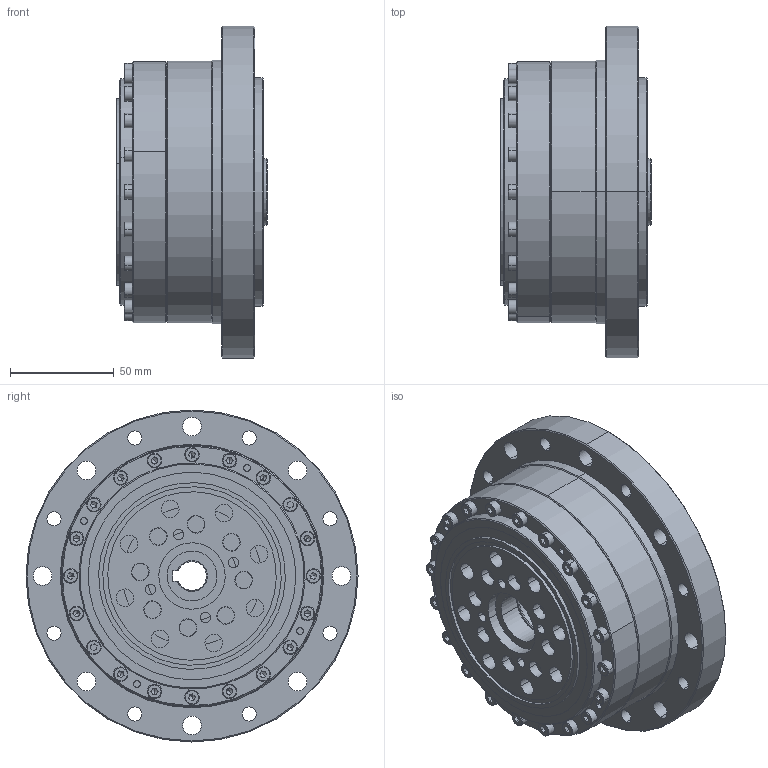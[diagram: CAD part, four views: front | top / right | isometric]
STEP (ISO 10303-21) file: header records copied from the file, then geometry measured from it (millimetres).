
FILE_DESCRIPTION (( 'STEP AP203' ), '1' );
FILE_NAME ('BCS-40-XXX-U-¢ò.STEP', '2019-01-15T03:25:15', ( 'User' ), ( 'China' ), 'SwSTEP 2.0', 'SolidWorks 2015', '' );
FILE_SCHEMA (( 'CONFIG_CONTROL_DESIGN' ));
Length unit declared in the file: millimetre
Products named in the file (1): BCS-40-XXX-U-ｊ
Bounding box: 72.5 x 160 x 160 mm (x, y, z)
Surface area: 134057.4 mm2 (no closed solid volume)
Topology: 0 solids, 49 shells, 529 faces, 1669 edges, 1102 vertices
Faces by surface type: plane 190, cylinder 182, cone 107, sphere 46, bspline 2, torus 2
Entity records: 18891 total; most frequent: CARTESIAN_POINT 4465, DIRECTION 3240, ORIENTED_EDGE 2508, EDGE_CURVE 1518, AXIS2_PLACEMENT_3D 1252, VERTEX_POINT 1033, LINE 736, VECTOR 736
